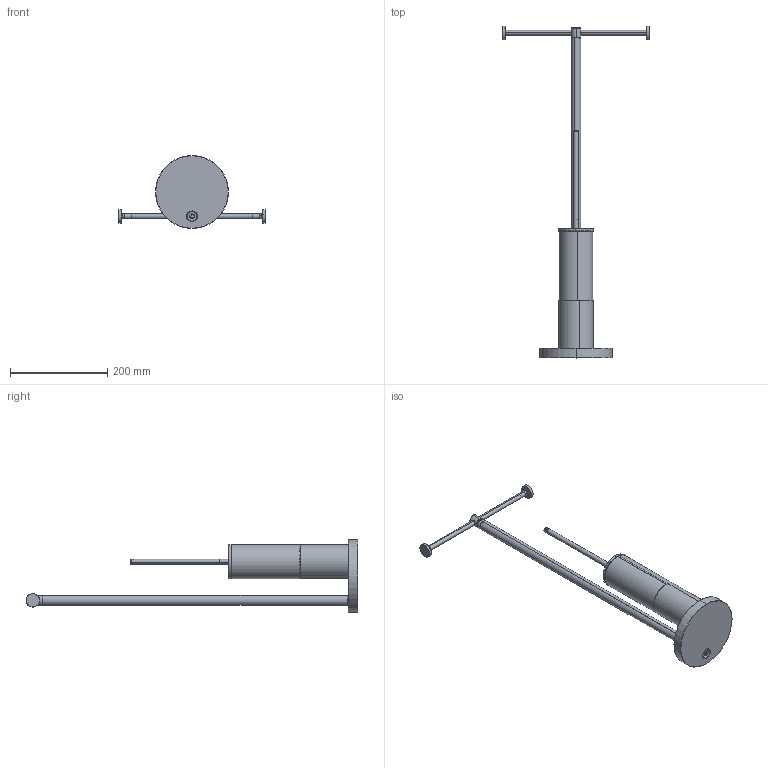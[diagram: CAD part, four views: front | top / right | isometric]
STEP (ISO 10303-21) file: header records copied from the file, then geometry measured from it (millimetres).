
FILE_DESCRIPTION (( 'STEP AP203' ), '1' );
FILE_NAME ('CWP4.STEP', '2020-12-15T13:20:27', ( '' ), ( '' ), 'SwSTEP 2.0', 'SolidWorks 2021', '' );
FILE_SCHEMA (( 'CONFIG_CONTROL_DESIGN' ));
Length unit declared in the file: millimetre
Products named in the file (22): C25.2285.00.0; C25.0785.00.0; C21.2373.00.0; C21.2375.00.0; C21.2357.00.0; C11.12.0012; CWP4; C47.00.0127.06; C25.2356.00.0; C25.2310.00.0; C25.2376.00.0; C25.2360.00.0; C21.2358.00.0; C11.14.0011; ORING ﾘ 3,68 X 1,78; CWS4; C25.2309.00.0; C25.2354.00.0; C25.2366.00.0; C24.2330.00.0; C25.2377.00.0; VITE TCEI M6x20
Assembly tree (22 placements, depth 3):
  CWP4
    C21.2375.00.0
    C25.0785.00.0  x2
    C25.2366.00.0
    C25.2376.00.0
    C24.2330.00.0
    C25.2377.00.0
    C11.14.0011
    CWS4
      C21.2373.00.0
      C25.2360.00.0
      C21.2358.00.0
      C25.2354.00.0
      C25.2356.00.0
      C21.2357.00.0
      C25.2309.00.0
      C47.00.0127.06
      C25.2285.00.0
      C25.2310.00.0
      ORING ﾘ 3,68 X 1,78
    C11.12.0012
    VITE TCEI M6x20
Bounding box: 302 x 682.97 x 150 mm (x, y, z)
Volume: 1164976.7 mm3; surface area: 337667.4 mm2
Topology: 21 solids, 21 shells, 315 faces, 628 edges, 377 vertices
Faces by surface type: cylinder 126, plane 81, cone 80, torus 28
Entity records: 10458 total; most frequent: DIRECTION 1596, CARTESIAN_POINT 1501, ORIENTED_EDGE 1188, AXIS2_PLACEMENT_3D 680, EDGE_CURVE 594, VERTEX_POINT 363, EDGE_LOOP 355, CIRCLE 352
